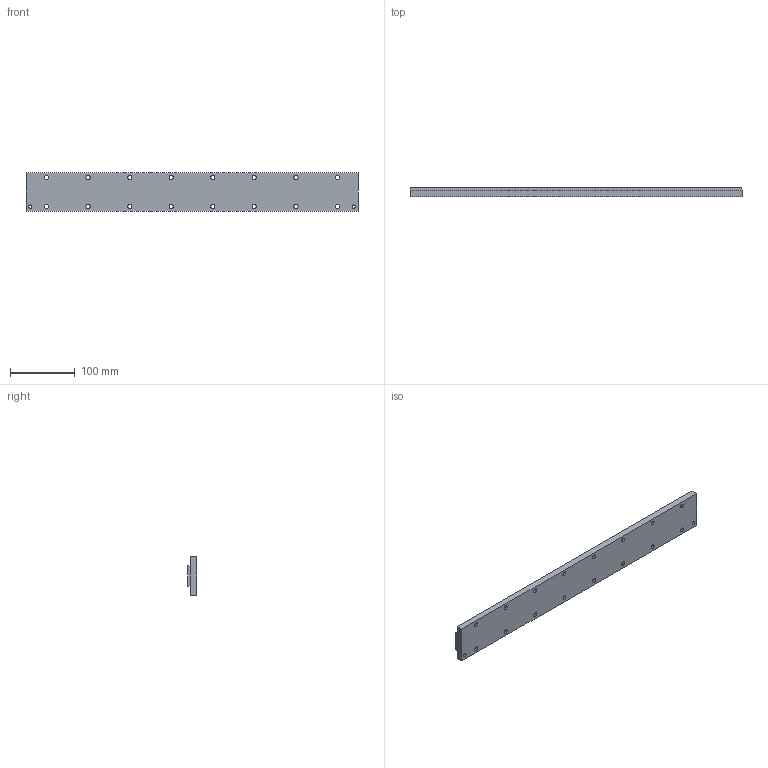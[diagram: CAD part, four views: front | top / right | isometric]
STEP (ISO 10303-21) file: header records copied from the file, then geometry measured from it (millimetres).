
FILE_DESCRIPTION((''),'2;1');
FILE_NAME('MC030-0512-WC','2007-01-14T',('saurabh.singhal'),(''),'PRO/ENGINEER BY PARAMETRIC TECHNOLOGY CORPORATION, 2005450','PRO/ENGINEER BY PARAMETRIC TECHNOLOGY CORPORATION, 2005450','');
FILE_SCHEMA(('CONFIG_CONTROL_DESIGN'));
Length unit declared in the file: millimetre
Products named in the file (1): MC030-0512-WC
Bounding box: 511.3 x 14.4 x 60 mm (x, y, z)
Volume: 355883.3 mm3; surface area: 129035 mm2
Topology: 1 solids, 1 shells, 258 faces, 624 edges, 416 vertices
Faces by surface type: plane 190, cylinder 68
Entity records: 7618 total; most frequent: CARTESIAN_POINT 1298, DIRECTION 1276, ORIENTED_EDGE 1248, EDGE_CURVE 624, VECTOR 488, LINE 488, VERTEX_POINT 416, AXIS2_PLACEMENT_3D 394
